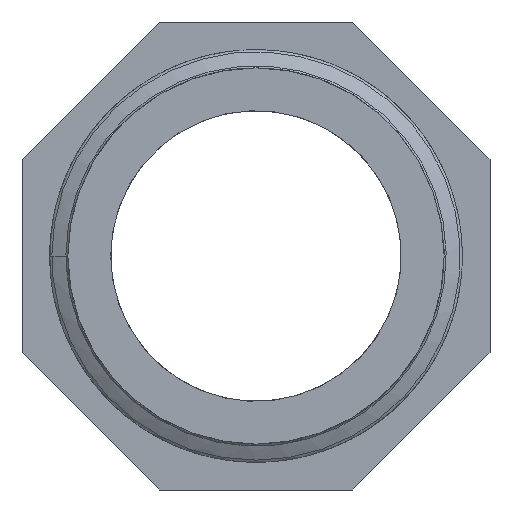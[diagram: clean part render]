
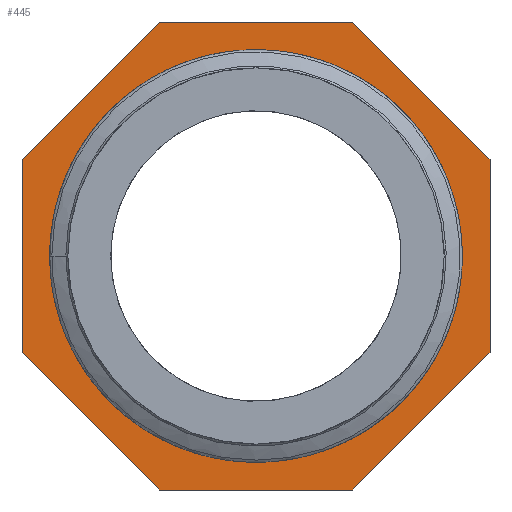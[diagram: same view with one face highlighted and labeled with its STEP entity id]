
A CAD part, front view. The second image highlights one B-rep face of the part: STEP entity #445.
In plain terms, the highlighted planar face has unit normal (0, -1, 0).
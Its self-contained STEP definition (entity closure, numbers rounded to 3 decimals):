
#18=FACE_BOUND('',#135,.T.);
#24=PLANE('',#473);
#38=LINE('',#4030,#70);
#41=LINE('',#4037,#73);
#42=LINE('',#4039,#74);
#43=LINE('',#4041,#75);
#44=LINE('',#4043,#76);
#45=LINE('',#4045,#77);
#46=LINE('',#4047,#78);
#47=LINE('',#4049,#79);
#48=LINE('',#4050,#80);
#70=VECTOR('',#508,0.084);
#73=VECTOR('',#515,12.426);
#74=VECTOR('',#516,12.426);
#75=VECTOR('',#517,12.426);
#76=VECTOR('',#518,12.426);
#77=VECTOR('',#519,12.426);
#78=VECTOR('',#520,12.426);
#79=VECTOR('',#521,12.426);
#80=VECTOR('',#522,12.426);
#107=FACE_OUTER_BOUND('',#134,.T.);
#134=EDGE_LOOP('',(#330,#331,#332,#333,#334,#335,#336,#337));
#135=EDGE_LOOP('',(#338,#339,#340,#341,#342,#343,#344));
#162=CIRCLE('',#474,12.059);
#168=B_SPLINE_CURVE_WITH_KNOTS('',3,(#1251,#1252,#1253,#1254,#1255,#1256,
#1257,#1258,#1259,#1260,#1261,#1262),.UNSPECIFIED.,.F.,.F.,(4,2,2,2,2,4),
(0.,0.336,0.648,0.95,1.152,
1.324),.UNSPECIFIED.);
#171=B_SPLINE_CURVE_WITH_KNOTS('',3,(#1914,#1915,#1916,#1917,#1918,#1919,
#1920,#1921,#1922,#1923,#1924,#1925,#1926),.UNSPECIFIED.,.F.,.F.,(4,3,3,
3,4),(0.,0.158,0.775,1.404,2.046),
 .UNSPECIFIED.);
#173=B_SPLINE_CURVE_WITH_KNOTS('',3,(#2549,#2550,#2551,#2552,#2553,#2554),
 .UNSPECIFIED.,.F.,.F.,(4,2,4),(0.,0.468,1.062),
 .UNSPECIFIED.);
#176=B_SPLINE_CURVE_WITH_KNOTS('',3,(#3425,#3426,#3427,#3428),
 .UNSPECIFIED.,.F.,.F.,(4,4),(0.,0.148),.UNSPECIFIED.);
#179=B_SPLINE_CURVE_WITH_KNOTS('',3,(#4014,#4015,#4016,#4017,#4018,#4019,
#4020,#4021,#4022,#4023,#4024,#4025,#4026),.UNSPECIFIED.,.F.,.F.,(4,3,3,
3,4),(0.,0.162,0.805,1.435,2.049),
 .UNSPECIFIED.);
#191=VERTEX_POINT('',#1249);
#192=VERTEX_POINT('',#1250);
#195=VERTEX_POINT('',#1913);
#197=VERTEX_POINT('',#2548);
#200=VERTEX_POINT('',#3423);
#201=VERTEX_POINT('',#3424);
#204=VERTEX_POINT('',#4029);
#205=VERTEX_POINT('',#4035);
#206=VERTEX_POINT('',#4036);
#207=VERTEX_POINT('',#4038);
#208=VERTEX_POINT('',#4040);
#209=VERTEX_POINT('',#4042);
#210=VERTEX_POINT('',#4044);
#211=VERTEX_POINT('',#4046);
#212=VERTEX_POINT('',#4048);
#233=EDGE_CURVE('',#191,#192,#168,.T.);
#237=EDGE_CURVE('',#195,#191,#171,.T.);
#240=EDGE_CURVE('',#197,#195,#173,.T.);
#244=EDGE_CURVE('',#200,#201,#176,.T.);
#249=EDGE_CURVE('',#192,#200,#179,.T.);
#251=EDGE_CURVE('',#201,#204,#38,.T.);
#254=EDGE_CURVE('',#205,#206,#41,.T.);
#255=EDGE_CURVE('',#206,#207,#42,.T.);
#256=EDGE_CURVE('',#207,#208,#43,.T.);
#257=EDGE_CURVE('',#208,#209,#44,.T.);
#258=EDGE_CURVE('',#209,#210,#45,.T.);
#259=EDGE_CURVE('',#210,#211,#46,.T.);
#260=EDGE_CURVE('',#211,#212,#47,.T.);
#261=EDGE_CURVE('',#212,#205,#48,.T.);
#262=EDGE_CURVE('',#197,#204,#162,.T.);
#330=ORIENTED_EDGE('',*,*,#254,.T.);
#331=ORIENTED_EDGE('',*,*,#255,.T.);
#332=ORIENTED_EDGE('',*,*,#256,.T.);
#333=ORIENTED_EDGE('',*,*,#257,.T.);
#334=ORIENTED_EDGE('',*,*,#258,.T.);
#335=ORIENTED_EDGE('',*,*,#259,.T.);
#336=ORIENTED_EDGE('',*,*,#260,.T.);
#337=ORIENTED_EDGE('',*,*,#261,.T.);
#338=ORIENTED_EDGE('',*,*,#240,.T.);
#339=ORIENTED_EDGE('',*,*,#237,.T.);
#340=ORIENTED_EDGE('',*,*,#233,.T.);
#341=ORIENTED_EDGE('',*,*,#249,.T.);
#342=ORIENTED_EDGE('',*,*,#244,.T.);
#343=ORIENTED_EDGE('',*,*,#251,.T.);
#344=ORIENTED_EDGE('',*,*,#262,.F.);
#445=ADVANCED_FACE('',(#107,#18),#24,.T.);
#473=AXIS2_PLACEMENT_3D('',#4034,#513,#514);
#474=AXIS2_PLACEMENT_3D('',#4051,#523,#524);
#508=DIRECTION('',(-0.201,0.,0.98));
#513=DIRECTION('center_axis',(0.,-1.,0.));
#514=DIRECTION('ref_axis',(0.,0.,-1.));
#515=DIRECTION('',(1.,0.,0.));
#516=DIRECTION('',(0.707,0.,0.707));
#517=DIRECTION('',(0.,0.,1.));
#518=DIRECTION('',(-0.707,0.,0.707));
#519=DIRECTION('',(-1.,0.,0.));
#520=DIRECTION('',(-0.707,0.,-0.707));
#521=DIRECTION('',(0.,0.,-1.));
#522=DIRECTION('',(0.707,0.,-0.707));
#523=DIRECTION('center_axis',(0.,-1.,0.));
#524=DIRECTION('ref_axis',(1.,0.,0.));
#1249=CARTESIAN_POINT('',(-4.141,16.,12.416));
#1250=CARTESIAN_POINT('',(12.223,16.,4.679));
#1251=CARTESIAN_POINT('Ctrl Pts',(-4.141,16.,12.415));
#1252=CARTESIAN_POINT('Ctrl Pts',(-3.093,16.,12.815));
#1253=CARTESIAN_POINT('Ctrl Pts',(-1.579,16.,13.199));
#1254=CARTESIAN_POINT('Ctrl Pts',(1.94,16.,13.176));
#1255=CARTESIAN_POINT('Ctrl Pts',(3.617,16.,12.827));
#1256=CARTESIAN_POINT('Ctrl Pts',(6.687,16.,11.525));
#1257=CARTESIAN_POINT('Ctrl Pts',(8.062,16.,10.601));
#1258=CARTESIAN_POINT('Ctrl Pts',(10.006,16.,8.667));
#1259=CARTESIAN_POINT('Ctrl Pts',(10.686,16.,7.79));
#1260=CARTESIAN_POINT('Ctrl Pts',(11.706,16.,6.034));
#1261=CARTESIAN_POINT('Ctrl Pts',(12.017,16.,5.293));
#1262=CARTESIAN_POINT('Ctrl Pts',(12.223,16.,4.679));
#1913=CARTESIAN_POINT('',(-11.386,16.,-4.359));
#1914=CARTESIAN_POINT('Ctrl Pts',(-11.386,16.,-4.359));
#1915=CARTESIAN_POINT('Ctrl Pts',(-11.597,16.,-3.877));
#1916=CARTESIAN_POINT('Ctrl Pts',(-11.776,16.,-3.383));
#1917=CARTESIAN_POINT('Ctrl Pts',(-11.921,16.,-2.881));
#1918=CARTESIAN_POINT('Ctrl Pts',(-12.492,16.,-0.915));
#1919=CARTESIAN_POINT('Ctrl Pts',(-12.558,16.,1.201));
#1920=CARTESIAN_POINT('Ctrl Pts',(-12.124,16.,3.202));
#1921=CARTESIAN_POINT('Ctrl Pts',(-11.679,16.,5.245));
#1922=CARTESIAN_POINT('Ctrl Pts',(-10.712,16.,7.178));
#1923=CARTESIAN_POINT('Ctrl Pts',(-9.345,16.,8.768));
#1924=CARTESIAN_POINT('Ctrl Pts',(-7.951,16.,10.388));
#1925=CARTESIAN_POINT('Ctrl Pts',(-6.143,16.,11.652));
#1926=CARTESIAN_POINT('Ctrl Pts',(-4.141,16.,12.415));
#2548=CARTESIAN_POINT('',(-5.154,16.,-10.901));
#2549=CARTESIAN_POINT('Ctrl Pts',(-5.154,16.,-10.902));
#2550=CARTESIAN_POINT('Ctrl Pts',(-6.563,16.,-10.235));
#2551=CARTESIAN_POINT('Ctrl Pts',(-7.832,16.,-9.311));
#2552=CARTESIAN_POINT('Ctrl Pts',(-10.259,16.,-6.731));
#2553=CARTESIAN_POINT('Ctrl Pts',(-10.988,16.,-5.273));
#2554=CARTESIAN_POINT('Ctrl Pts',(-11.386,16.,-4.359));
#3423=CARTESIAN_POINT('',(3.857,16.,-11.565));
#3424=CARTESIAN_POINT('',(2.444,16.,-11.894));
#3425=CARTESIAN_POINT('Ctrl Pts',(3.857,16.,-11.566));
#3426=CARTESIAN_POINT('Ctrl Pts',(3.382,16.,-11.701));
#3427=CARTESIAN_POINT('Ctrl Pts',(2.922,16.,-11.809));
#3428=CARTESIAN_POINT('Ctrl Pts',(2.444,16.,-11.894));
#4014=CARTESIAN_POINT('Ctrl Pts',(12.223,16.,4.679));
#4015=CARTESIAN_POINT('Ctrl Pts',(12.395,16.,4.166));
#4016=CARTESIAN_POINT('Ctrl Pts',(12.535,16.,3.645));
#4017=CARTESIAN_POINT('Ctrl Pts',(12.641,16.,3.117));
#4018=CARTESIAN_POINT('Ctrl Pts',(13.064,16.,1.025));
#4019=CARTESIAN_POINT('Ctrl Pts',(12.959,16.,-1.179));
#4020=CARTESIAN_POINT('Ctrl Pts',(12.332,16.,-3.216));
#4021=CARTESIAN_POINT('Ctrl Pts',(11.718,16.,-5.211));
#4022=CARTESIAN_POINT('Ctrl Pts',(10.601,16.,-7.056));
#4023=CARTESIAN_POINT('Ctrl Pts',(9.106,16.,-8.518));
#4024=CARTESIAN_POINT('Ctrl Pts',(7.646,16.,-9.945));
#4025=CARTESIAN_POINT('Ctrl Pts',(5.826,16.,-11.007));
#4026=CARTESIAN_POINT('Ctrl Pts',(3.857,16.,-11.566));
#4029=CARTESIAN_POINT('',(2.427,16.,-11.812));
#4030=CARTESIAN_POINT('',(1.249,16.,-6.079));
#4034=CARTESIAN_POINT('Origin',(0.,16.,0.));
#4035=CARTESIAN_POINT('',(-6.213,16.,-15.));
#4036=CARTESIAN_POINT('',(6.213,16.,-15.));
#4037=CARTESIAN_POINT('',(-6.213,16.,-15.));
#4038=CARTESIAN_POINT('',(15.,16.,-6.213));
#4039=CARTESIAN_POINT('',(6.213,16.,-15.));
#4040=CARTESIAN_POINT('',(15.,16.,6.213));
#4041=CARTESIAN_POINT('',(15.,16.,-6.213));
#4042=CARTESIAN_POINT('',(6.213,16.,15.));
#4043=CARTESIAN_POINT('',(15.,16.,6.213));
#4044=CARTESIAN_POINT('',(-6.213,16.,15.));
#4045=CARTESIAN_POINT('',(6.213,16.,15.));
#4046=CARTESIAN_POINT('',(-15.,16.,6.213));
#4047=CARTESIAN_POINT('',(-6.213,16.,15.));
#4048=CARTESIAN_POINT('',(-15.,16.,-6.213));
#4049=CARTESIAN_POINT('',(-15.,16.,6.213));
#4050=CARTESIAN_POINT('',(-15.,16.,-6.213));
#4051=CARTESIAN_POINT('Origin',(0.,16.,0.));
